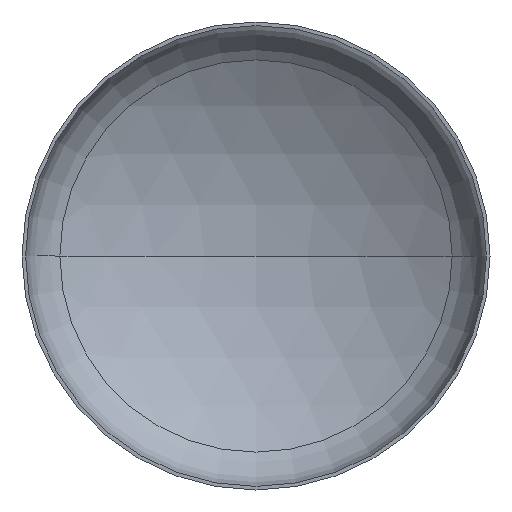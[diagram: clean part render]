
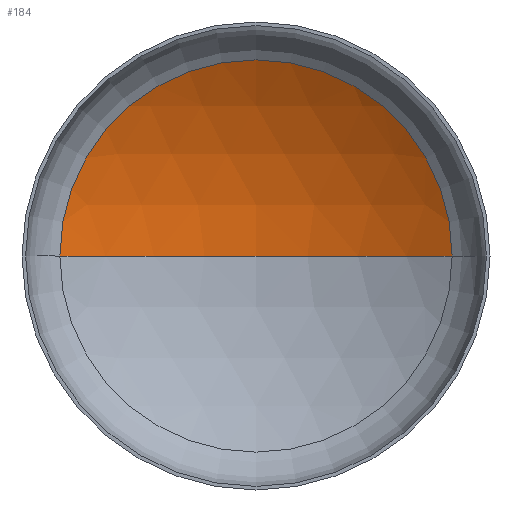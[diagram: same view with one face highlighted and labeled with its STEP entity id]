
A CAD part, front view. The second image highlights one B-rep face of the part: STEP entity #184.
In plain terms, the highlighted spherical face has radius 1040 mm.
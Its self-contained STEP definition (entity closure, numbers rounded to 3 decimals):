
#4 = DIRECTION ( 'NONE',  ( 0., -1., 0. ) ) ;
#5 = VERTEX_POINT ( 'NONE', #348 ) ;
#6 = AXIS2_PLACEMENT_3D ( 'NONE', #232, #352, #262 ) ;
#9 = DIRECTION ( 'NONE',  ( 0., 0., -1. ) ) ;
#11 = ORIENTED_EDGE ( 'NONE', *, *, #125, .T. ) ;
#13 = CARTESIAN_POINT ( 'NONE',  ( 0., -685.542, 0. ) ) ;
#15 = EDGE_LOOP ( 'NONE', ( #22, #11, #115 ) ) ;
#22 = ORIENTED_EDGE ( 'NONE', *, *, #345, .F. ) ;
#35 = VERTEX_POINT ( 'NONE', #272 ) ;
#51 = AXIS2_PLACEMENT_3D ( 'NONE', #365, #349, #209 ) ;
#54 = AXIS2_PLACEMENT_3D ( 'NONE', #13, #9, #394 ) ;
#57 = AXIS2_PLACEMENT_3D ( 'NONE', #398, #4, #158 ) ;
#115 = ORIENTED_EDGE ( 'NONE', *, *, #119, .T. ) ;
#119 = EDGE_CURVE ( 'NONE', #35, #5, #129, .T. ) ;
#125 = EDGE_CURVE ( 'NONE', #338, #35, #255, .T. ) ;
#129 = CIRCLE ( 'NONE', #57, 544.762 ) ;
#135 = CARTESIAN_POINT ( 'NONE',  ( 0., 354.458, 0. ) ) ;
#158 = DIRECTION ( 'NONE',  ( 1., 0., 0. ) ) ;
#184 = ADVANCED_FACE ( 'NONE', ( #245 ), #187, .F. ) ;
#187 = SPHERICAL_SURFACE ( 'NONE', #51, 1040. ) ;
#209 = DIRECTION ( 'NONE',  ( -1., 0., 0. ) ) ;
#232 = CARTESIAN_POINT ( 'NONE',  ( 0., -685.542, 0. ) ) ;
#245 = FACE_OUTER_BOUND ( 'NONE', #15, .T. ) ;
#255 = CIRCLE ( 'NONE', #54, 1040. ) ;
#262 = DIRECTION ( 'NONE',  ( 1., 0., 0. ) ) ;
#272 = CARTESIAN_POINT ( 'NONE',  ( 544.762, 200.367, 0. ) ) ;
#277 = CIRCLE ( 'NONE', #6, 1040. ) ;
#338 = VERTEX_POINT ( 'NONE', #135 ) ;
#345 = EDGE_CURVE ( 'NONE', #338, #5, #277, .T. ) ;
#348 = CARTESIAN_POINT ( 'NONE',  ( -544.762, 200.367, 0. ) ) ;
#349 = DIRECTION ( 'NONE',  ( 0., 0., -1. ) ) ;
#352 = DIRECTION ( 'NONE',  ( 0., 0., 1. ) ) ;
#365 = CARTESIAN_POINT ( 'NONE',  ( 0., -685.542, 0. ) ) ;
#394 = DIRECTION ( 'NONE',  ( -1., 0., 0. ) ) ;
#398 = CARTESIAN_POINT ( 'NONE',  ( 0., 200.367, 0. ) ) ;
